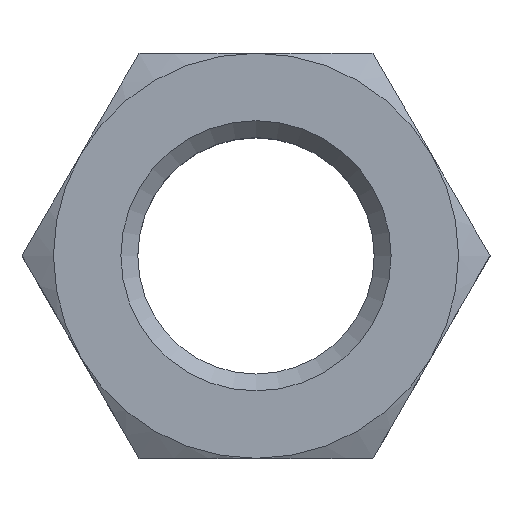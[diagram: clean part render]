
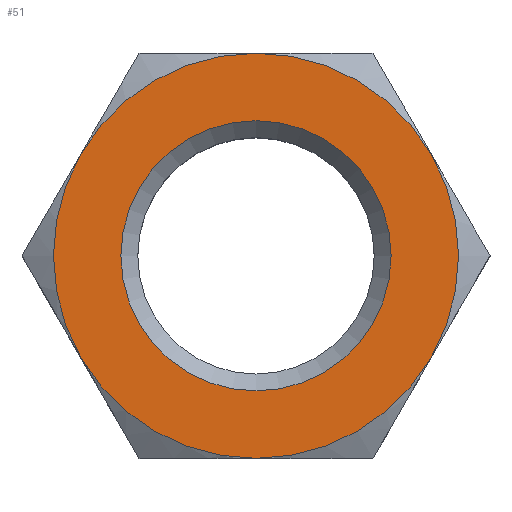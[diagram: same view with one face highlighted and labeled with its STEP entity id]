
A CAD part, top view. The second image highlights one B-rep face of the part: STEP entity #51.
In plain terms, the highlighted planar face has unit normal (0, 0, 1).
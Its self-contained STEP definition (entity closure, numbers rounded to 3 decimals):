
#51 = ADVANCED_FACE( '', ( #105, #106 ), #107, .T. );
#105 = FACE_BOUND( '', #158, .T. );
#106 = FACE_OUTER_BOUND( '', #159, .T. );
#107 = PLANE( '', #160 );
#158 = EDGE_LOOP( '', ( #233 ) );
#159 = EDGE_LOOP( '', ( #234 ) );
#160 = AXIS2_PLACEMENT_3D( '', #235, #236, #237 );
#233 = ORIENTED_EDGE( '', *, *, #306, .T. );
#234 = ORIENTED_EDGE( '', *, *, #295, .F. );
#235 = CARTESIAN_POINT( '', ( -10.392, -18., 21.5 ) );
#236 = DIRECTION( '', ( 0., 0., 1. ) );
#237 = DIRECTION( '', ( 1., 0., 0. ) );
#295 = EDGE_CURVE( '', #343, #343, #344, .T. );
#306 = EDGE_CURVE( '', #359, #359, #360, .F. );
#343 = VERTEX_POINT( '', #454 );
#344 = CIRCLE( '', #455, 17.99 );
#359 = VERTEX_POINT( '', #536 );
#360 = CIRCLE( '', #537, 12. );
#454 = CARTESIAN_POINT( '', ( -17.99, 0., 21.5 ) );
#455 = AXIS2_PLACEMENT_3D( '', #601, #602, #603 );
#536 = CARTESIAN_POINT( '', ( 12., 0., 21.5 ) );
#537 = AXIS2_PLACEMENT_3D( '', #608, #609, #610 );
#601 = CARTESIAN_POINT( '', ( 0., 0., 21.5 ) );
#602 = DIRECTION( '', ( 0., 0., -1. ) );
#603 = DIRECTION( '', ( -1., 0., 0. ) );
#608 = CARTESIAN_POINT( '', ( 0., 0., 21.5 ) );
#609 = DIRECTION( '', ( 0., 0., 1. ) );
#610 = DIRECTION( '', ( 1., 0., 0. ) );
